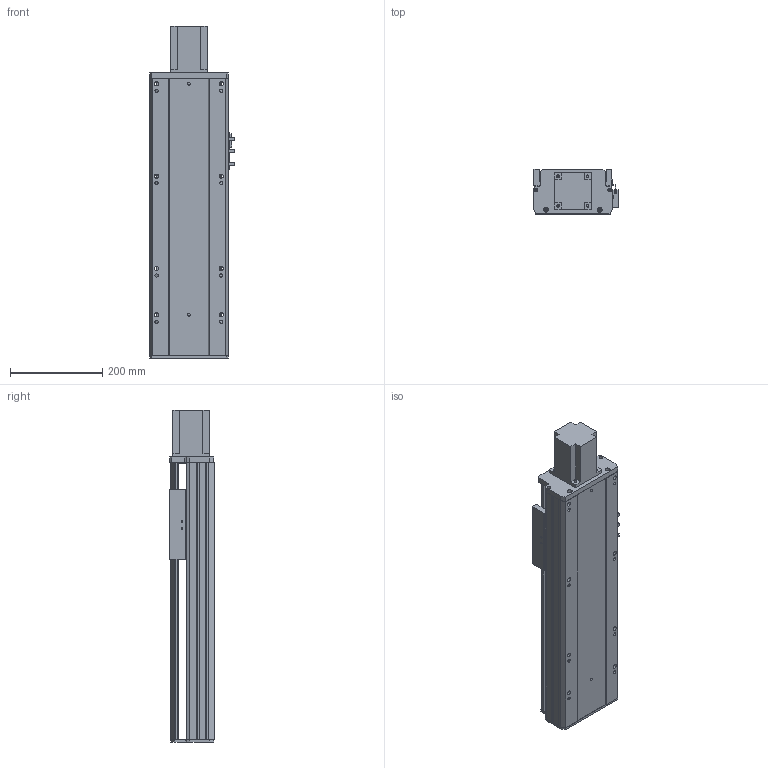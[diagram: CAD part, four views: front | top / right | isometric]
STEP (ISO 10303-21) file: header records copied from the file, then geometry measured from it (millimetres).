
FILE_DESCRIPTION (( 'STEP AP203' ), '1' );
FILE_NAME ('Y170-D10-S350-BD-P750W.STEP', '2020-01-22T03:54:40', ( '微软用户' ), ( '微软中国' ), 'SwSTEP 2.0', 'SolidWorks 2017', '' );
FILE_SCHEMA (( 'CONFIG_CONTROL_DESIGN' ));
Length unit declared in the file: millimetre
Products named in the file (10): Y170-萇儂楊擘啣--; 135-盓傅釱-FK15; 侂狟750W; Y170耜裔--準---; Y170-陔遴奻裔-BD; Y170--雄赽釱-梓--; YD-Y100-135-新外置传感挡片(通用）; Y170-D10-S350-BD-P750W; Y100-135俋离換覜ん; 170--掛极-BD
Assembly tree (11 placements, depth 2):
  Y170-D10-S350-BD-P750W
    YD-Y100-135-新外置传感挡片(通用）
    Y100-135俋离換覜ん  x3
    170--掛极-BD
    Y170-萇儂楊擘啣--
    135-盓傅釱-FK15
    侂狟750W
    Y170耜裔--準---
    Y170-陔遴奻裔-BD
    Y170--雄赽釱-梓--
Bounding box: 183.5 x 97 x 718.5 mm (x, y, z)
Volume: 3431545.9 mm3; surface area: 1066356.8 mm2
Topology: 11 solids, 11 shells, 792 faces, 2211 edges, 1464 vertices
Faces by surface type: cylinder 402, plane 388, torus 2
Entity records: 25311 total; most frequent: CARTESIAN_POINT 4387, DIRECTION 4265, ORIENTED_EDGE 4086, EDGE_CURVE 2043, AXIS2_PLACEMENT_3D 1526, VERTEX_POINT 1352, LINE 1213, VECTOR 1213
